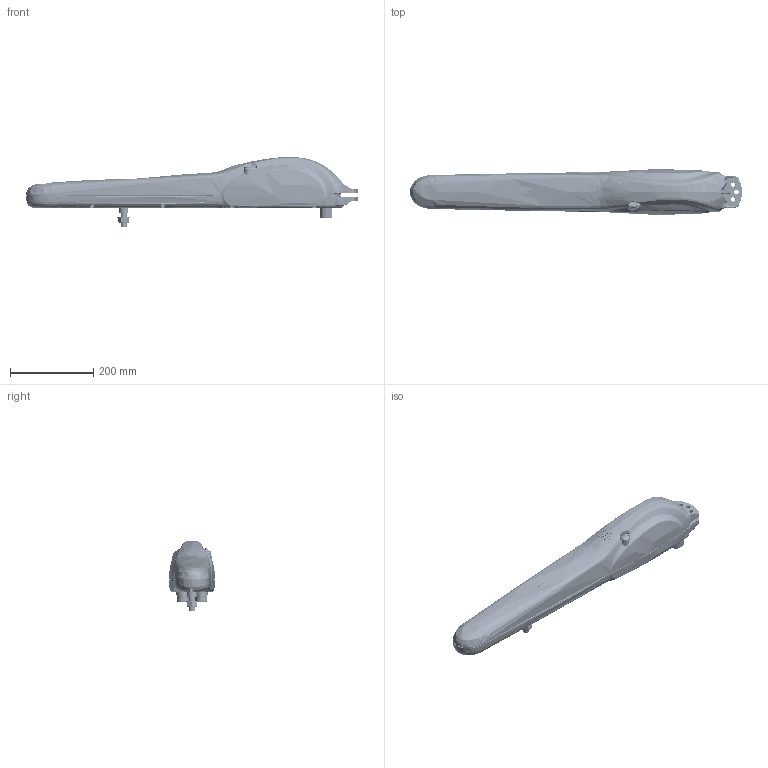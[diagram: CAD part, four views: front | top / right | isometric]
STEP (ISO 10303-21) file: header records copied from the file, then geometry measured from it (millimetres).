
FILE_DESCRIPTION(/* description */ ('Unknown'),/* implementation_level */ '2;1');
FILE_NAME(/* name */ 'MAC',/* time_stamp */ '2021-11-17T09:18:56+01:00',/* author */ ('Unknown'),/* organization */ ('Unknown'),/* preprocessor_version */ 'ST-DEVELOPER v16.7',/* originating_system */ 'DEX',/* authorisation */ $);
FILE_SCHEMA (('AUTOMOTIVE_DESIGN {1 0 10303 214 3 1 1}'));
Products named in the file (17): 625010; 310980; 460010_oa_0; 330250; 372000; 330460; 380320; 330470; 340090; 310970; 134103; 321440; 134701; 134302; 321420; 131711; 131203
Assembly tree (26 placements, depth 3):
  625010
    310980
    460010_oa_0
      330250
    372000
      330460
      380320
      330470  x2
      340090
    310970
    134103  x8
    321440
    134701  x3
    134302
    321420
    131711
    131203
Bounding box: 797.02 x 110.37 x 167.95 mm (x, y, z)
Volume: 624017.9 mm3; surface area: 631868.6 mm2
Topology: 23 solids, 26 shells, 12029 faces, 28093 edges, 14899 vertices
Faces by surface type: cylinder 4405, bspline 3340, plane 2368, sphere 1418, cone 261, torus 237
Full cylindrical faces by diameter (mm): 2.5 x1, 3 x1, 3.9 x1, 4 x1, 4.3 x1, 5 x6, 5.5 x11, 6.5 x9, 7.5 x4, 7.8 x1, 8 x5, 9.2 x3, 9.5 x6, 10 x9, 10.3 x6, 11.835 x1, 12 x7, 14 x2, 14.9 x1, 15 x2, 15.5 x1, 16.2 x4, 18 x1, 22 x1, 24 x1, 30 x2
Entity records: 393409 total; most frequent: CARTESIAN_POINT 144053, ORIENTED_EDGE 52106, DIRECTION 46140, EDGE_CURVE 26055, AXIS2_PLACEMENT_3D 18372, VERTEX_POINT 14611, FACE_BOUND 12347, EDGE_LOOP 12346
